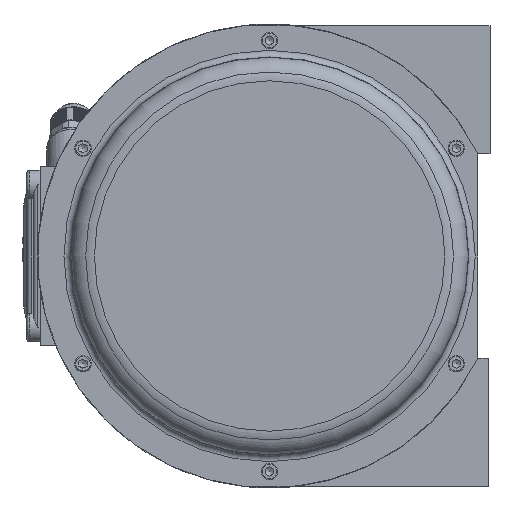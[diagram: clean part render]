
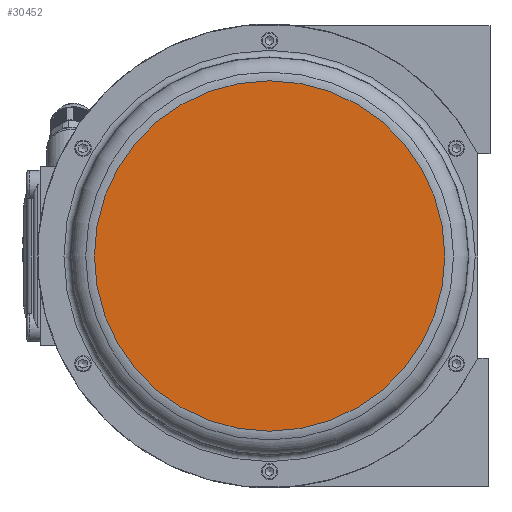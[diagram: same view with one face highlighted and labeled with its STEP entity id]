
A CAD part, left-side view. The second image highlights one B-rep face of the part: STEP entity #30452.
In plain terms, the highlighted planar face has unit normal (-1, 0, 0).
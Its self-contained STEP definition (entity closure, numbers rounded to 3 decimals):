
#2059=PLANE('',#32702);
#3452=FACE_OUTER_BOUND('',#5134,.T.);
#5134=EDGE_LOOP('',(#25528));
#11681=CIRCLE('',#32703,106.5);
#14088=VERTEX_POINT('',#56148);
#18026=EDGE_CURVE('',#14088,#14088,#11681,.T.);
#25528=ORIENTED_EDGE('',*,*,#18026,.F.);
#30452=ADVANCED_FACE('',(#3452),#2059,.T.);
#32702=AXIS2_PLACEMENT_3D('',#56147,#39088,#39089);
#32703=AXIS2_PLACEMENT_3D('',#56149,#39090,#39091);
#39088=DIRECTION('center_axis',(-1.,0.,0.));
#39089=DIRECTION('ref_axis',(0.,-1.,0.));
#39090=DIRECTION('center_axis',(1.,0.,0.));
#39091=DIRECTION('ref_axis',(0.,0.,
-1.));
#56147=CARTESIAN_POINT('Origin',(-329.473,3.58,60.5));
#56148=CARTESIAN_POINT('',(-329.473,-102.92,0.));
#56149=CARTESIAN_POINT('Origin',(-329.473,3.58,0.));
